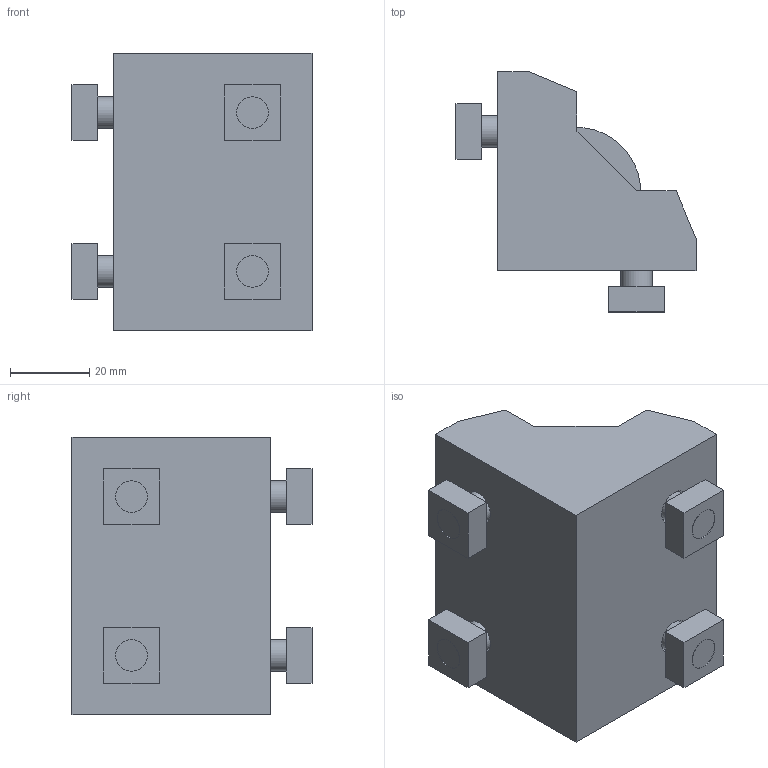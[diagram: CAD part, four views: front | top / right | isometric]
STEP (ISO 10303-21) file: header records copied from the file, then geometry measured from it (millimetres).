
FILE_DESCRIPTION((''),'2;1');
FILE_NAME('E:\ABLD-80-8.stp','2013-12-25T16:19:16',('AMS8'),(''),'Autodesk Inventor 2008','Autodesk Inventor 2008','');
FILE_SCHEMA(('AUTOMOTIVE_DESIGN { 1 0 10303 214 1 1 1 1 }'));
Length unit declared in the file: millimetre
Products named in the file (10): ABLD-80-8; ABLD-80-81; ABLD-80-82; ABLD-80-83; ABLD-80-84; ABLD-80-85; ABLD-80-86; ABLD-80-87; ABLD-80-88; ABLD-80-89
Assembly tree (9 placements, depth 2):
  ABLD-80-8
    ABLD-80-81
    ABLD-80-82
    ABLD-80-83
    ABLD-80-84
    ABLD-80-85
    ABLD-80-86
    ABLD-80-87
    ABLD-80-88
    ABLD-80-89
Bounding box: 60.5 x 60.5 x 70 mm (x, y, z)
Volume: 81613.2 mm3; surface area: 30514.7 mm2
Topology: 9 solids, 9 shells, 113 faces, 249 edges, 166 vertices
Faces by surface type: plane 92, cylinder 21
Full cylindrical faces by diameter (mm): 8 x8, 8.4 x4, 9 x4, 18 x4
Entity records: 3309 total; most frequent: DIRECTION 535, CARTESIAN_POINT 527, ORIENTED_EDGE 458, EDGE_CURVE 229, VECTOR 187, LINE 187, AXIS2_PLACEMENT_3D 174, VERTEX_POINT 166
